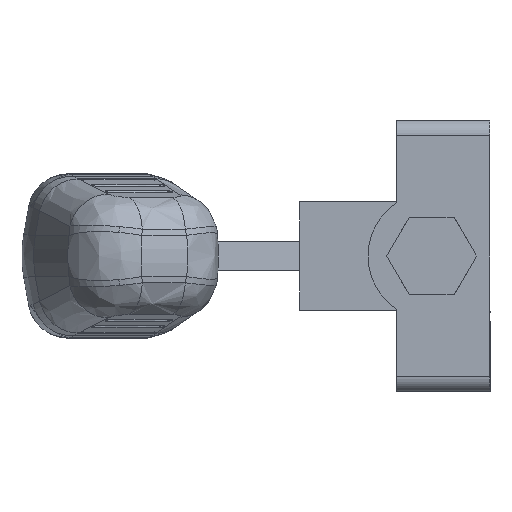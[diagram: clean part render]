
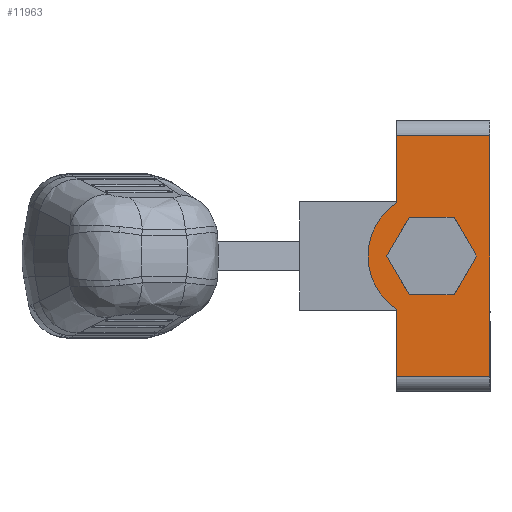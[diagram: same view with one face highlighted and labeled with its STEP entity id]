
A CAD part, left-side view. The second image highlights one B-rep face of the part: STEP entity #11963.
In plain terms, the highlighted planar face has unit normal (-1, 0, 0) as drawn and (0, 0, 1) by its records, which use the part's own axes.
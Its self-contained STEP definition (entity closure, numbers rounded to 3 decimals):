
#581 = CARTESIAN_POINT ( 'NONE',  ( 0., 7.5, 39. ) ) ;
#830 = VERTEX_POINT ( 'NONE', #10318 ) ;
#1150 = AXIS2_PLACEMENT_3D ( 'NONE', #30963, #25517, #4869 ) ;
#1215 = CARTESIAN_POINT ( 'NONE',  ( -17.5, 0., 39. ) ) ;
#1312 = CARTESIAN_POINT ( 'NONE',  ( 15.5, 12., 39. ) ) ;
#1651 = VECTOR ( 'NONE', #10406, 1000. ) ;
#3092 = CARTESIAN_POINT ( 'NONE',  ( -15.5, 12., 39. ) ) ;
#3227 = DIRECTION ( 'NONE',  ( 1., 0., 0. ) ) ;
#3633 = CARTESIAN_POINT ( 'NONE',  ( -15.5, 0., 39. ) ) ;
#3894 = EDGE_CURVE ( 'NONE', #20016, #830, #19222, .T. ) ;
#4545 = ORIENTED_EDGE ( 'NONE', *, *, #32321, .T. ) ;
#4869 = DIRECTION ( 'NONE',  ( -1., 0., 0. ) ) ;
#5253 = VECTOR ( 'NONE', #17166, 1000. ) ;
#6301 = DIRECTION ( 'NONE',  ( 0., 0., 1. ) ) ;
#6361 = EDGE_LOOP ( 'NONE', ( #13204, #14135 ) ) ;
#6608 = LINE ( 'NONE', #29776, #33763 ) ;
#6773 = ORIENTED_EDGE ( 'NONE', *, *, #23052, .T. ) ;
#6841 = EDGE_CURVE ( 'NONE', #12858, #20016, #24930, .T. ) ;
#7325 = CARTESIAN_POINT ( 'NONE',  ( -6.855, 12., 39. ) ) ;
#7731 = EDGE_CURVE ( 'NONE', #15479, #830, #23284, .T. ) ;
#7757 = CARTESIAN_POINT ( 'NONE',  ( -15.5, 12., 39. ) ) ;
#8115 = CARTESIAN_POINT ( 'NONE',  ( 0., 7.5, 39. ) ) ;
#8811 = AXIS2_PLACEMENT_3D ( 'NONE', #22010, #6301, #24629 ) ;
#9190 = VERTEX_POINT ( 'NONE', #3092 ) ;
#9541 = AXIS2_PLACEMENT_3D ( 'NONE', #581, #18967, #3227 ) ;
#10163 = VECTOR ( 'NONE', #27333, 1000. ) ;
#10318 = CARTESIAN_POINT ( 'NONE',  ( 15.5, 12., 39. ) ) ;
#10406 = DIRECTION ( 'NONE',  ( 0., -1., 0. ) ) ;
#10775 = DIRECTION ( 'NONE',  ( 1., 0., 0. ) ) ;
#11963 = ADVANCED_FACE ( 'NONE', ( #26355, #18584 ), #20593, .F. ) ;
#12858 = VERTEX_POINT ( 'NONE', #3633 ) ;
#13204 = ORIENTED_EDGE ( 'NONE', *, *, #16704, .F. ) ;
#14112 = VERTEX_POINT ( 'NONE', #7325 ) ;
#14135 = ORIENTED_EDGE ( 'NONE', *, *, #19047, .F. ) ;
#15479 = VERTEX_POINT ( 'NONE', #33445 ) ;
#15774 = CIRCLE ( 'NONE', #8811, 5. ) ;
#16453 = LINE ( 'NONE', #7757, #1651 ) ;
#16704 = EDGE_CURVE ( 'NONE', #19947, #24338, #23650, .T. ) ;
#17166 = DIRECTION ( 'NONE',  ( 0., 1., 0. ) ) ;
#18227 = AXIS2_PLACEMENT_3D ( 'NONE', #8115, #26440, #10775 ) ;
#18584 = FACE_OUTER_BOUND ( 'NONE', #31647, .T. ) ;
#18967 = DIRECTION ( 'NONE',  ( 0., 0., 1. ) ) ;
#19047 = EDGE_CURVE ( 'NONE', #24338, #19947, #15774, .T. ) ;
#19222 = LINE ( 'NONE', #1312, #5253 ) ;
#19730 = CARTESIAN_POINT ( 'NONE',  ( 5., 7.5, 39. ) ) ;
#19947 = VERTEX_POINT ( 'NONE', #19730 ) ;
#20016 = VERTEX_POINT ( 'NONE', #33673 ) ;
#20165 = ORIENTED_EDGE ( 'NONE', *, *, #3894, .T. ) ;
#20593 = PLANE ( 'NONE',  #1150 ) ;
#21780 = EDGE_CURVE ( 'NONE', #9190, #14112, #6608, .T. ) ;
#22010 = CARTESIAN_POINT ( 'NONE',  ( 0., 7.5, 39. ) ) ;
#22234 = DIRECTION ( 'NONE',  ( 1., 0., 0. ) ) ;
#23052 = EDGE_CURVE ( 'NONE', #9190, #12858, #16453, .T. ) ;
#23284 = LINE ( 'NONE', #32573, #10163 ) ;
#23650 = CIRCLE ( 'NONE', #18227, 5. ) ;
#24123 = VECTOR ( 'NONE', #22234, 1000. ) ;
#24338 = VERTEX_POINT ( 'NONE', #33751 ) ;
#24395 = ORIENTED_EDGE ( 'NONE', *, *, #21780, .F. ) ;
#24496 = ORIENTED_EDGE ( 'NONE', *, *, #7731, .F. ) ;
#24629 = DIRECTION ( 'NONE',  ( 1., 0., 0. ) ) ;
#24930 = LINE ( 'NONE', #1215, #24123 ) ;
#25517 = DIRECTION ( 'NONE',  ( 0., 0., -1. ) ) ;
#26355 = FACE_BOUND ( 'NONE', #6361, .T. ) ;
#26440 = DIRECTION ( 'NONE',  ( 0., 0., 1. ) ) ;
#26762 = ORIENTED_EDGE ( 'NONE', *, *, #6841, .T. ) ;
#26987 = DIRECTION ( 'NONE',  ( 1., 0., 0. ) ) ;
#27333 = DIRECTION ( 'NONE',  ( 1., 0., 0. ) ) ;
#29087 = CIRCLE ( 'NONE', #9541, 8.2 ) ;
#29776 = CARTESIAN_POINT ( 'NONE',  ( -17.5, 12., 39. ) ) ;
#30963 = CARTESIAN_POINT ( 'NONE',  ( -17.5, 12., 39. ) ) ;
#31647 = EDGE_LOOP ( 'NONE', ( #26762, #20165, #24496, #4545, #24395, #6773 ) ) ;
#32321 = EDGE_CURVE ( 'NONE', #15479, #14112, #29087, .T. ) ;
#32573 = CARTESIAN_POINT ( 'NONE',  ( -17.5, 12., 39. ) ) ;
#33445 = CARTESIAN_POINT ( 'NONE',  ( 6.855, 12., 39. ) ) ;
#33673 = CARTESIAN_POINT ( 'NONE',  ( 15.5, 0., 39. ) ) ;
#33751 = CARTESIAN_POINT ( 'NONE',  ( -5., 7.5, 39. ) ) ;
#33763 = VECTOR ( 'NONE', #26987, 1000. ) ;
